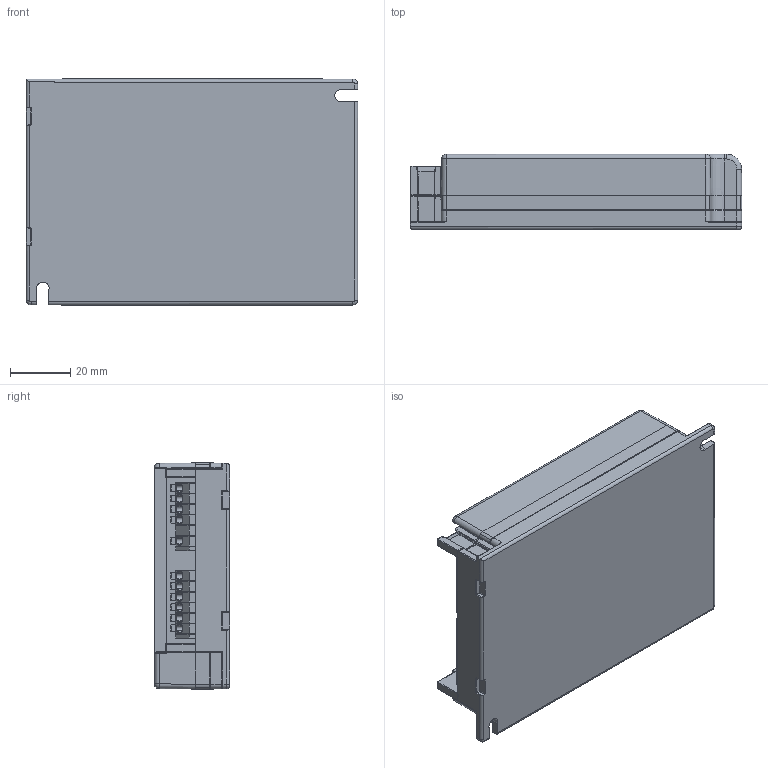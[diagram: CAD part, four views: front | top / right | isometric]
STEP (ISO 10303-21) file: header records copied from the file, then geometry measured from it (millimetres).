
FILE_DESCRIPTION (( 'STEP AP214' ), '1' );
FILE_NAME ('OTiDALI50FAN_CADexport.STEP', '2013-08-05T11:30:42', ( '' ), ( '' ), 'SwSTEP 2.0', 'SolidWorks 2012', '' );
FILE_SCHEMA (( 'AUTOMOTIVE_DESIGN' ));
Length unit declared in the file: millimetre
Products named in the file (1): OTiDALI50FAN_CADexport
Bounding box: 110 x 25 x 75 mm (x, y, z)
Volume: 190088.5 mm3; surface area: 27565.9 mm2
Topology: 1 solids, 5 shells, 910 faces, 2287 edges, 1365 vertices
Faces by surface type: plane 382, cylinder 373, bspline 63, torus 53, sphere 37, cone 2
Entity records: 37687 total; most frequent: CARTESIAN_POINT 7349, ORIENTED_EDGE 4504, DIRECTION 3942, EDGE_CURVE 2252, LINE 1376, VECTOR 1376, VERTEX_POINT 1365, AXIS2_PLACEMENT_3D 1283
